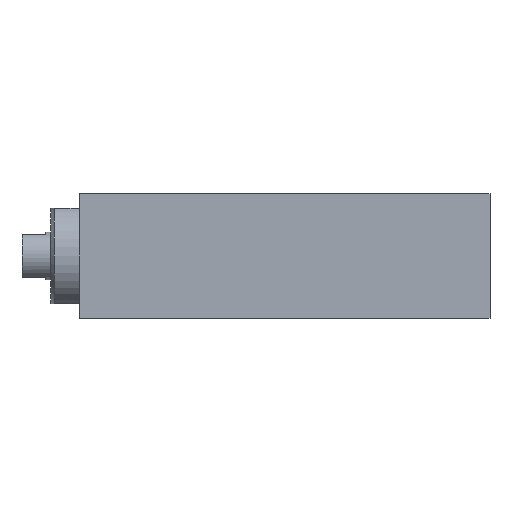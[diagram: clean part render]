
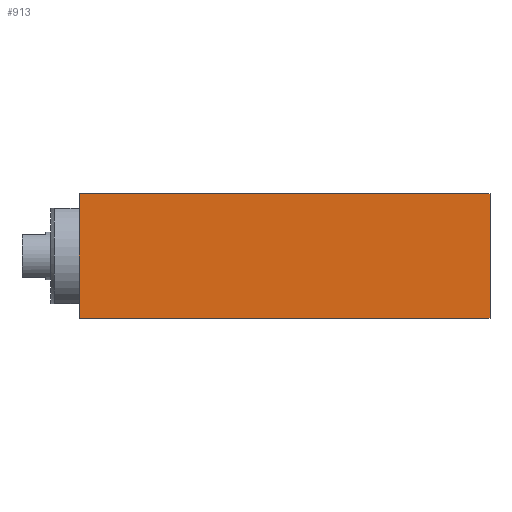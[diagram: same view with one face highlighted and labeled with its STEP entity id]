
A CAD part, front view. The second image highlights one B-rep face of the part: STEP entity #913.
In plain terms, the highlighted planar face has unit normal (0, -1, 0).
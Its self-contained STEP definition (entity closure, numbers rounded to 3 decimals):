
#10 = VERTEX_POINT ( 'NONE', #2315 ) ;
#140 = FACE_OUTER_BOUND ( 'NONE', #2164, .T. ) ;
#151 = VERTEX_POINT ( 'NONE', #643 ) ;
#220 = CARTESIAN_POINT ( 'NONE',  ( 43., -11., -6.5 ) ) ;
#326 = VECTOR ( 'NONE', #2608, 1000. ) ;
#381 = PLANE ( 'NONE',  #2181 ) ;
#450 = DIRECTION ( 'NONE',  ( 0., -1., 0. ) ) ;
#518 = CARTESIAN_POINT ( 'NONE',  ( 0., -11., -6.5 ) ) ;
#624 = DIRECTION ( 'NONE',  ( 0., 0., 1. ) ) ;
#643 = CARTESIAN_POINT ( 'NONE',  ( 43., -11., -6.5 ) ) ;
#684 = EDGE_CURVE ( 'NONE', #10, #1769, #2543, .T. ) ;
#883 = VECTOR ( 'NONE', #926, 1000. ) ;
#913 = ADVANCED_FACE ( 'NONE', ( #140 ), #381, .T. ) ;
#926 = DIRECTION ( 'NONE',  ( -1., 0., 0. ) ) ;
#1135 = EDGE_CURVE ( 'NONE', #151, #1538, #2252, .T. ) ;
#1206 = ORIENTED_EDGE ( 'NONE', *, *, #684, .F. ) ;
#1488 = VECTOR ( 'NONE', #624, 1000. ) ;
#1538 = VERTEX_POINT ( 'NONE', #2941 ) ;
#1769 = VERTEX_POINT ( 'NONE', #2408 ) ;
#2005 = DIRECTION ( 'NONE',  ( 1., 0., 0. ) ) ;
#2049 = ORIENTED_EDGE ( 'NONE', *, *, #2949, .T. ) ;
#2098 = CARTESIAN_POINT ( 'NONE',  ( 43., -11., 6.5 ) ) ;
#2164 = EDGE_LOOP ( 'NONE', ( #1206, #2790, #2640, #2049 ) ) ;
#2181 = AXIS2_PLACEMENT_3D ( 'NONE', #3002, #450, #2005 ) ;
#2252 = LINE ( 'NONE', #2491, #1488 ) ;
#2315 = CARTESIAN_POINT ( 'NONE',  ( 0., -11., -6.5 ) ) ;
#2394 = VECTOR ( 'NONE', #2524, 1000. ) ;
#2408 = CARTESIAN_POINT ( 'NONE',  ( 0., -11., 6.5 ) ) ;
#2491 = CARTESIAN_POINT ( 'NONE',  ( 43., -11., -6.5 ) ) ;
#2524 = DIRECTION ( 'NONE',  ( -1., 0., 0. ) ) ;
#2543 = LINE ( 'NONE', #518, #326 ) ;
#2608 = DIRECTION ( 'NONE',  ( 0., 0., 1. ) ) ;
#2640 = ORIENTED_EDGE ( 'NONE', *, *, #1135, .T. ) ;
#2739 = LINE ( 'NONE', #220, #883 ) ;
#2790 = ORIENTED_EDGE ( 'NONE', *, *, #2991, .F. ) ;
#2941 = CARTESIAN_POINT ( 'NONE',  ( 43., -11., 6.5 ) ) ;
#2949 = EDGE_CURVE ( 'NONE', #1538, #1769, #2993, .T. ) ;
#2991 = EDGE_CURVE ( 'NONE', #151, #10, #2739, .T. ) ;
#2993 = LINE ( 'NONE', #2098, #2394 ) ;
#3002 = CARTESIAN_POINT ( 'NONE',  ( 43., -11., -6.5 ) ) ;
